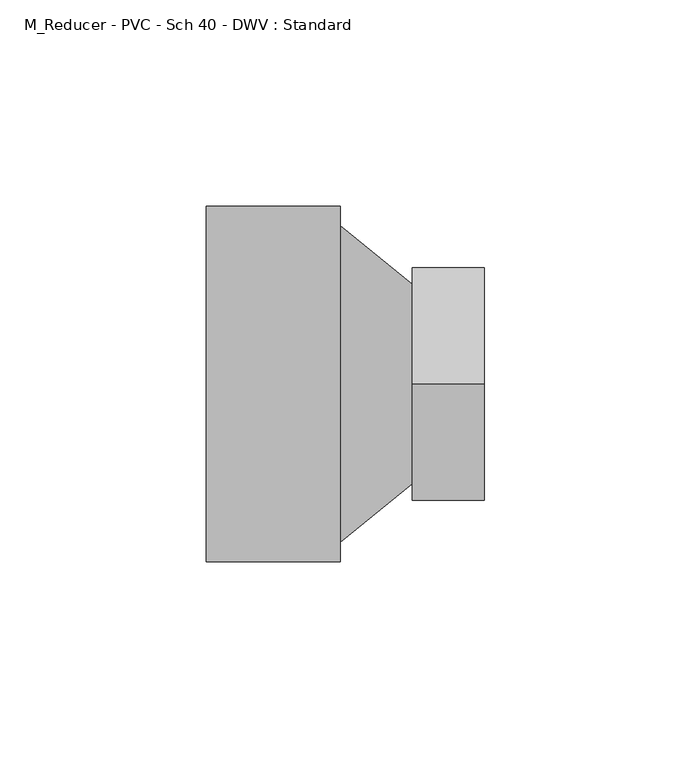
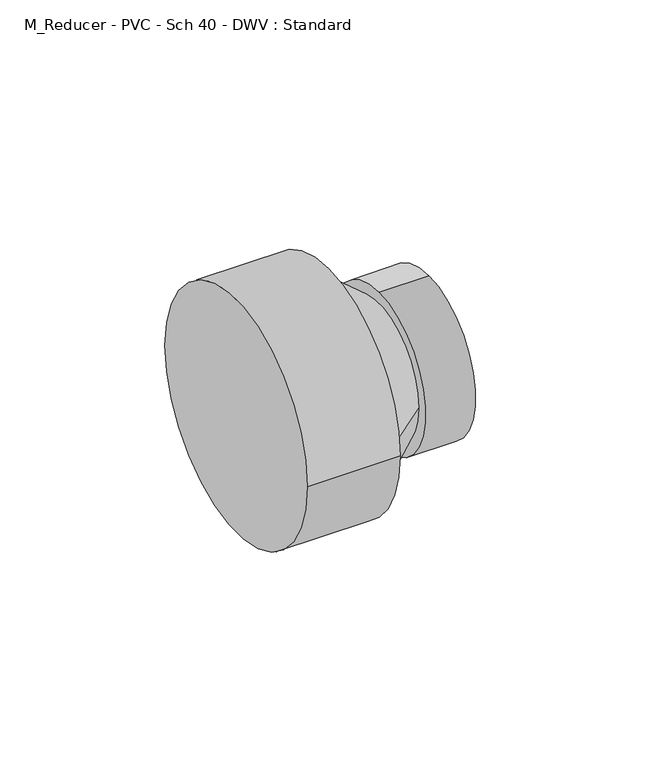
"""IFC4 building model written with IfcOpenShell, lengths in millimetres: pipe fitting geometry, M_Reducer - PVC - Sch 40 - DWV : Standard."""

from ifc_helpers import new_model, si_unit, frame, origin, place, context, project, spatial, polyline, circle_curve, source, transform, mapped, element, save
from ifc_brep_helpers import plane_surface, cylinder_surface, revolved_surface, advanced_brep


def m_reducer_pvc_sch_40_dwv_standard_d6f2da47(model_context):
    return source(origin(), model_context, "Body", "AdvancedBrep", [
        advanced_brep(
        [(0.0, -43.0871094, 0.0), (0.0, 43.0871094, 0.0), (32.5, -43.0871094, 0.0), (32.5, 43.0871094, 0.0), (32.5, 38.3640625, 0.0), (32.5, -38.3640625, 0.0), (49.9962938, 24.13, 0.0), (49.9962937, -24.13, 0.0), (49.9962938, 0.0, 28.2829), (49.9962938, 0.0, -28.2829), (67.4460938, 0.0, 28.2829), (67.4460938, 0.0, -28.2829)],
        [
            (0, 1, circle_curve(frame((0.0, 0.0, 0.0), z_axis=(-1.0, 0.0, 0.0), x_axis=(0.0, 1.0, 0.0)), 43.0871094)),
            (1, 0, circle_curve(frame((0.0, 0.0, 0.0), z_axis=(-1.0, 0.0, 0.0), x_axis=(0.0, 1.0, 0.0)), 43.0871094)),
            (2, 3, circle_curve(frame((32.5, 0.0, 0.0), z_axis=(1.0, 0.0, 0.0), x_axis=(0.0, 1.0, 0.0)), 43.0871094)),
            (3, 2, circle_curve(frame((32.5, 0.0, 0.0), z_axis=(1.0, 0.0, 0.0), x_axis=(0.0, 1.0, 0.0)), 43.0871094)),
            (4, 5, circle_curve(frame((32.5, 0.0, 0.0), z_axis=(-1.0, 0.0, 0.0), x_axis=(0.0, -1.0, 0.0)), 38.3640625)),
            (5, 4, circle_curve(frame((32.5, 0.0, 0.0), z_axis=(-1.0, 0.0, 0.0), x_axis=(0.0, 1.0, 0.0)), 38.3640625)),
            (0, 2),
            (3, 1),
            (4, 6),
            (6, 7, circle_curve(frame((49.9962938, 0.0, 0.0), z_axis=(-1.0, 0.0, 0.0), x_axis=(0.0, -1.0, 0.0)), 24.13)),
            (7, 5),
            (7, 6, circle_curve(frame((49.9962938, 0.0, 0.0), z_axis=(-1.0, 0.0, 0.0), x_axis=(0.0, 1.0, 0.0)), 24.13)),
            (8, 9, circle_curve(frame((49.9962938, 0.0, 0.0), z_axis=(-1.0, 0.0, 0.0), x_axis=(0.0, 0.0, -1.0)), 28.2829)),
            (9, 8, circle_curve(frame((49.9962938, 0.0, 0.0), z_axis=(-1.0, 0.0, 0.0), x_axis=(0.0, 0.0, -1.0)), 28.2829)),
            (10, 11, circle_curve(frame((67.4460938, 0.0, 0.0), z_axis=(1.0, 0.0, 0.0), x_axis=(0.0, 0.0, -1.0)), 28.2829)),
            (11, 10, circle_curve(frame((67.4460938, 0.0, 0.0), z_axis=(1.0, 0.0, 0.0), x_axis=(0.0, 0.0, -1.0)), 28.2829)),
            (8, 10),
            (11, 9),
        ],
        [
            plane_surface(frame((0.0, 0.0, 0.0), z_axis=(-1.0, 0.0, 0.0), x_axis=(0.0, 0.0, 1.0))),
            plane_surface(frame((32.5, 0.0, 0.0), z_axis=(1.0, 0.0, 0.0), x_axis=(0.0, 0.0, 1.0))),
            cylinder_surface(frame((0.0, 0.0, 0.0), z_axis=(-1.0, 0.0, 0.0), x_axis=(0.0, 1.0, 0.0)), 43.0871094),
            revolved_surface(polyline([(49.9962938, 24.129999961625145, 0.0), (32.5, 38.3640625, 0.0)]), (79.6565238, 0.0, 0.0), (-1.0, 0.0, 0.0)),
            plane_surface(frame((49.9962938, 0.0, 0.0), z_axis=(-1.0, 0.0, 0.0), x_axis=(0.0, 1.0, 0.0))),
            plane_surface(frame((67.4460938, 0.0, 0.0), z_axis=(1.0, 0.0, 0.0), x_axis=(0.0, 1.0, 0.0))),
            cylinder_surface(frame((49.9962938, 0.0, 0.0), z_axis=(-1.0, 0.0, 0.0), x_axis=(0.0, 0.0, -1.0)), 28.2829),
        ],
        [
            (0, [[1, 2]]),
            (1, [[3, 4], [5, 6]]),
            (2, [[-1, 7, -4, 8]]),
            (2, [[-2, -8, -3, -7]]),
            (3, [[9, 10, 11, -5]]),
            (3, [[-9, -6, -11, 12]]),
            (4, [[13, 14], [-10, -12]]),
            (5, [[15, 16]]),
            (6, [[-13, 17, -16, 18]]),
            (6, [[-14, -18, -15, -17]]),
        ],
    ),
    ])


if __name__ == "__main__":
    model = new_model("IFC4")
    model_context = context("Model", 3, world=origin())
    ifc_project = project(units=[si_unit("LENGTHUNIT", "METRE", prefix="MILLI")], contexts=[model_context])
    site = spatial("IfcSite", under=ifc_project)
    building = spatial("IfcBuilding", under=site)
    placement = place(None, origin())
    m_reducer_pvc_sch_40_dwv_standard_shape = m_reducer_pvc_sch_40_dwv_standard_d6f2da47(model_context)
    element("IfcPipeFitting", 1, ObjectType="M_Reducer - PVC - Sch 40 - DWV : Standard", at=placement, inside=building, context=model_context, shape_type="MappedRepresentation", body=[
        mapped(m_reducer_pvc_sch_40_dwv_standard_shape, transform((0.0, 0.0, 0.0), x_axis=(1.0, 0.0, 0.0), y_axis=(0.0, 1.0, 0.0), z_axis=(0.0, 0.0, 1.0))),
    ])
    save(model, "model.ifc")
